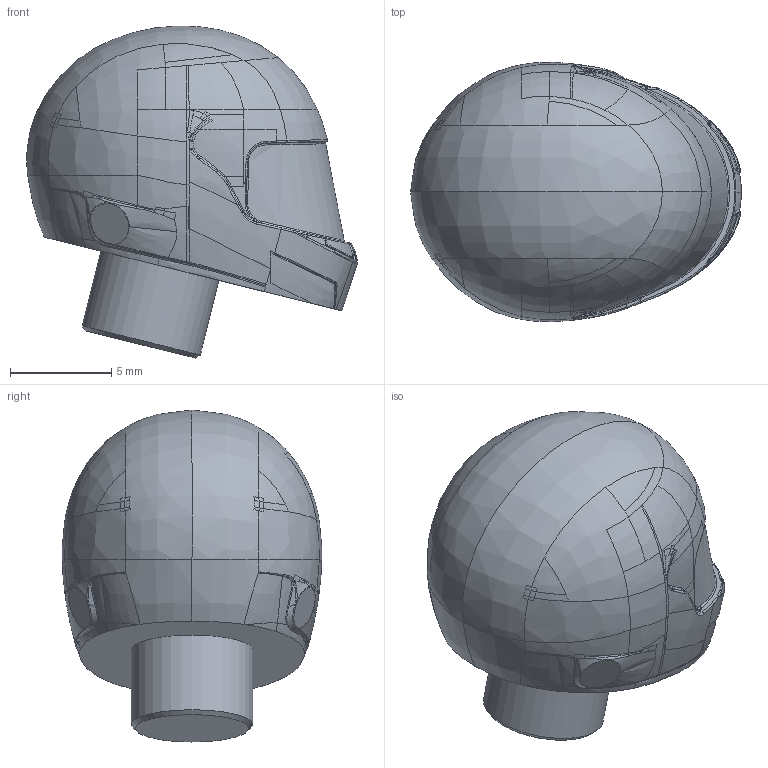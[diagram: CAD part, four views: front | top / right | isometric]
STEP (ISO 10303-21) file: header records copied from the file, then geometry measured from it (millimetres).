
FILE_DESCRIPTION(/* description */ ('STEP AP214'),/* implementation_level */ '2;1');
FILE_NAME(/* name */ '2025 Helmet with 6mm Dia Spigot Final.stp',/* time_stamp */ '2025-04-10T05:18:41-03:00',/* author */ ('willi'),/* organization */ (''),/* preprocessor_version */ 'ST-DEVELOPER v20',/* originating_system */ 'Autodesk Inventor 2025',/* authorisation */ '');
FILE_SCHEMA (('AUTOMOTIVE_DESIGN { 1 0 10303 214 3 1 1 }'));
Length unit declared in the file: millimetre
Products named in the file (1): 2025 Helmet  with 6mm Dia Spigot Final
Bounding box: 16.33 x 12.79 x 16.39 mm (x, y, z)
Volume: 1593 mm3; surface area: 756.5 mm2
Topology: 1 solids, 1 shells, 456 faces, 1210 edges, 748 vertices
Faces by surface type: bspline 430, plane 12, cylinder 11, sphere 2, cone 1
Full cylindrical faces by diameter (mm): 6 x1
Entity records: 44647 total; most frequent: CARTESIAN_POINT 36600, ORIENTED_EDGE 2402, EDGE_CURVE 1201, B_SPLINE_CURVE_WITH_KNOTS 962, VERTEX_POINT 748, DIRECTION 505, EDGE_LOOP 457, FACE_OUTER_BOUND 456
